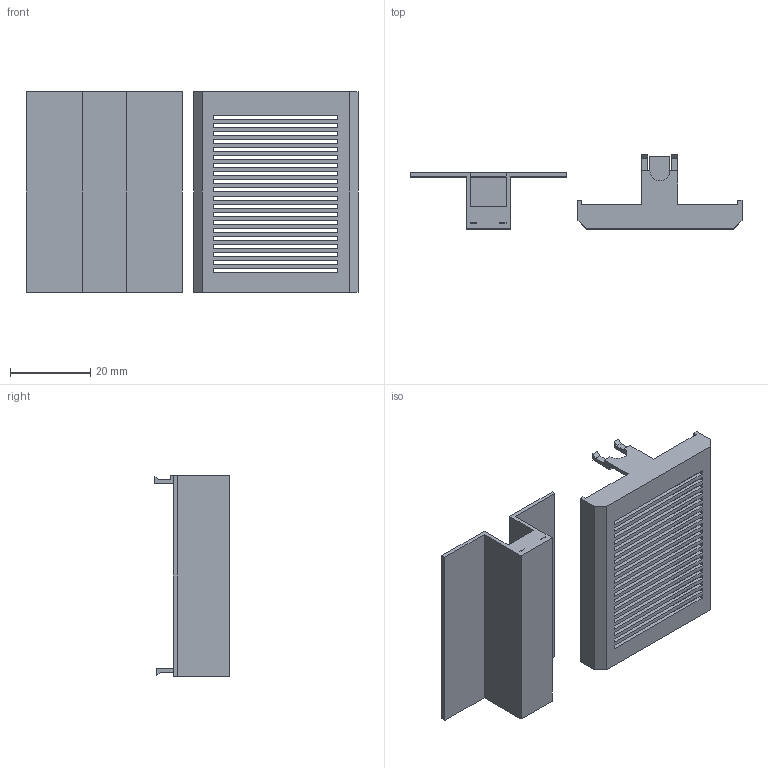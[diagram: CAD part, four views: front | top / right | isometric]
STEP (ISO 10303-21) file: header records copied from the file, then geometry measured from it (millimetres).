
FILE_DESCRIPTION(/* description */ (''),/* implementation_level */ '2;1');
FILE_NAME(/* name */ 'C:/Users/xxx/Documents/Arduino/openAger/Sensorhousing/Sensorgehäuse v10.step',/* time_stamp */ '2019-02-06T00:02:36+01:00',/* author */ ('valkicom'),/* organization */ (''),/* preprocessor_version */ 'ST-DEVELOPER v17',/* originating_system */ 'Autodesk Translation Framework v7.1.0.215',/* authorisation */ '');
FILE_SCHEMA (('AUTOMOTIVE_DESIGN { 1 0 10303 214 3 1 1 }'));
Length unit declared in the file: millimetre
Products named in the file (1): Sensorgehäuse
Bounding box: 83 x 18.57 x 50 mm (x, y, z)
Volume: 6128.2 mm3; surface area: 13718.3 mm2
Topology: 4 solids, 4 shells, 175 faces, 496 edges, 328 vertices
Faces by surface type: plane 172, cylinder 3
Full cylindrical faces by diameter (mm): 1.5 x2
Entity records: 5670 total; most frequent: CARTESIAN_POINT 1000, ORIENTED_EDGE 992, DIRECTION 854, EDGE_CURVE 496, LINE 490, VECTOR 490, VERTEX_POINT 328, EDGE_LOOP 220
